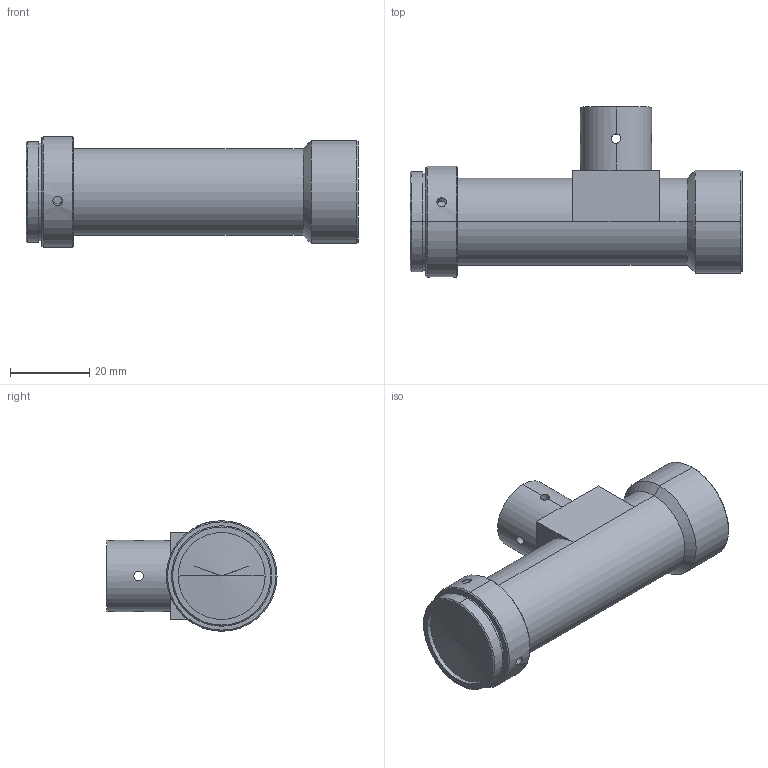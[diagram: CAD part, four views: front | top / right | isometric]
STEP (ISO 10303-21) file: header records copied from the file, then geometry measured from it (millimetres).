
FILE_DESCRIPTION (( 'STEP AP203' ), '1' );
FILE_NAME ('WWH20-65CT.STEP', '2019-12-03T03:37:32', ( 'Windows 蚚誧' ), ( '' ), 'SwSTEP 2.0', 'SolidWorks 2017', '' );
FILE_SCHEMA (( 'CONFIG_CONTROL_DESIGN' ));
Length unit declared in the file: millimetre
Products named in the file (1): WWH20-65CT
Bounding box: 83.97 x 43 x 28 mm (x, y, z)
Volume: 40237.5 mm3; surface area: 10190.9 mm2
Topology: 1 solids, 1 shells, 103 faces, 236 edges, 148 vertices
Faces by surface type: cylinder 58, cone 27, plane 18
Entity records: 3581 total; most frequent: CARTESIAN_POINT 1198, DIRECTION 480, ORIENTED_EDGE 464, EDGE_CURVE 232, AXIS2_PLACEMENT_3D 196, VERTEX_POINT 148, EDGE_LOOP 128, FACE_OUTER_BOUND 103
